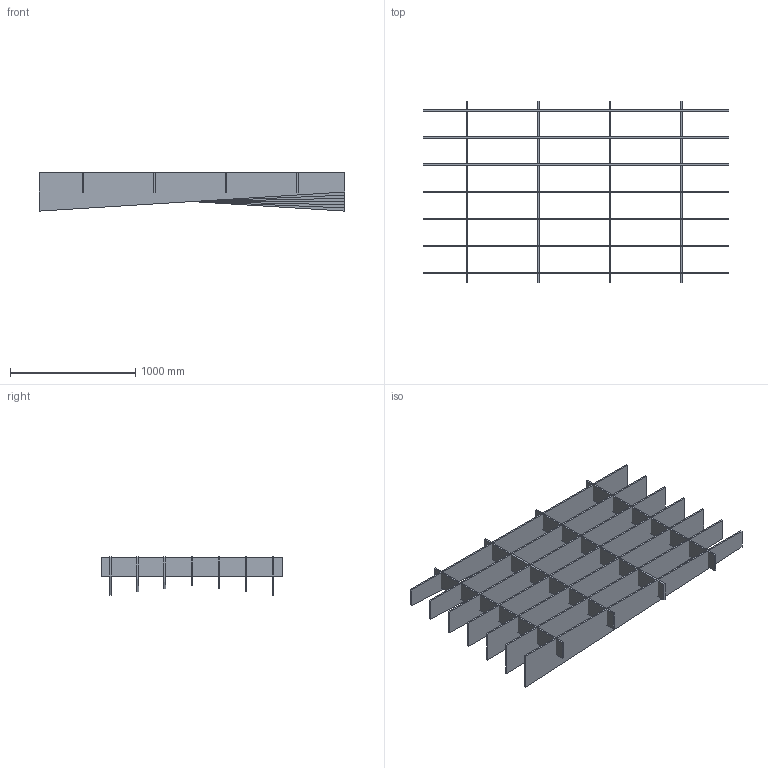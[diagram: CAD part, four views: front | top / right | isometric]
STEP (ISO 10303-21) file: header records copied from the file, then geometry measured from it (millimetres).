
FILE_DESCRIPTION(/* description */ (''),/* implementation_level */ '2;1');
FILE_NAME(/* name */ 'Topo Zig Full Frame Simplified',/* time_stamp */ '2026-04-13T11:43:11-05:00',/* author */ (''),/* organization */ (''),/* preprocessor_version */ 'ST-DEVELOPER v19.2',/* originating_system */ 'Rhino 8.29',/* authorisation */ '');
FILE_SCHEMA (('CONFIG_CONTROL_DESIGN'));
Length unit declared in the file: inch
Products named in the file (1): Document
Bounding box: 2438.4 x 1450.61 x 304.8 mm (x, y, z)
Volume: 60784955.3 mm3; surface area: 10209679.9 mm2
Topology: 11 solids, 11 shells, 66 faces, 132 edges, 88 vertices
Faces by surface type: plane 66
Entity records: 1546 total; most frequent: CARTESIAN_POINT 420, ORIENTED_EDGE 264, EDGE_CURVE 132, B_SPLINE_CURVE_WITH_KNOTS 132, VERTEX_POINT 88, DIRECTION 70, AXIS2_PLACEMENT_3D 68, ADVANCED_FACE 66
